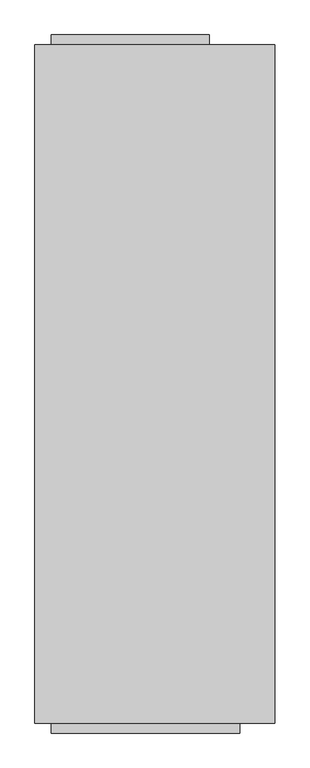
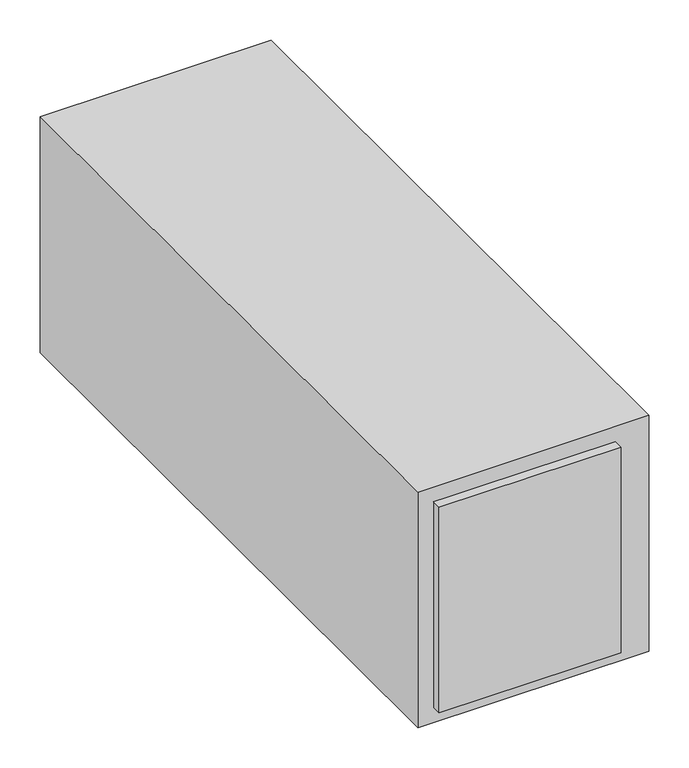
"""IFC4 building model written with IfcOpenShell, lengths in millimetres: proxy geometry, FC-4 & 5 : FC-4 & 5."""

from ifc_helpers import new_model, si_unit, frame, origin, origin_with_axes, place, context, project, spatial, polyline, outline, extrude, source, transform, mapped, element, save


def mechanical_equipment_46469baa(model_context):
    return source(origin(), model_context, "Body", "SweptSolid", [
        extrude(outline(polyline([(-238.76, -783.59), (196.85, -783.59), (196.85, -806.3125809), (-238.76, -806.3125809), (-238.76, -783.59)])), frame((0.0, 0.0, 38.1), z_axis=(0.0, 0.0, 1.0), x_axis=(1.0, 0.0, 0.0)), (0.0, 0.0, 1.0), 520.7),
        extrude(outline(polyline([(125.73, 783.59), (-238.76, 783.59), (-238.76, 806.3125809), (125.73, 806.3125809), (125.73, 783.59)])), frame((0.0, 0.0, 38.1), z_axis=(0.0, 0.0, 1.0), x_axis=(1.0, 0.0, 0.0)), (0.0, 0.0, 1.0), 520.7),
        extrude(outline(polyline([(276.86, 783.59), (276.86, -783.59), (-276.86, -783.59), (-276.86, 783.59), (276.86, 783.59)])), origin_with_axes(), (0.0, 0.0, 1.0), 596.9),
    ])


if __name__ == "__main__":
    model = new_model("IFC4")
    model_context = context("Model", 3, world=origin())
    ifc_project = project(units=[si_unit("LENGTHUNIT", "METRE", prefix="MILLI")], contexts=[model_context])
    site = spatial("IfcSite", under=ifc_project)
    building = spatial("IfcBuilding", under=site)
    placement = place(None, origin())
    mechanical_equipment_shape = mechanical_equipment_46469baa(model_context)
    element("IfcBuildingElementProxy", 1, Name="FC-4 & 5 : FC-4 & 5", ObjectType="FC-4 & 5 : FC-4 & 5", at=placement, inside=building, context=model_context, shape_type="MappedRepresentation", body=[
        mapped(mechanical_equipment_shape, transform((0.0, 0.0, 0.0), x_axis=(1.0, 0.0, 0.0), y_axis=(0.0, 1.0, 0.0), z_axis=(0.0, 0.0, 1.0))),
    ])
    save(model, "model.ifc")
